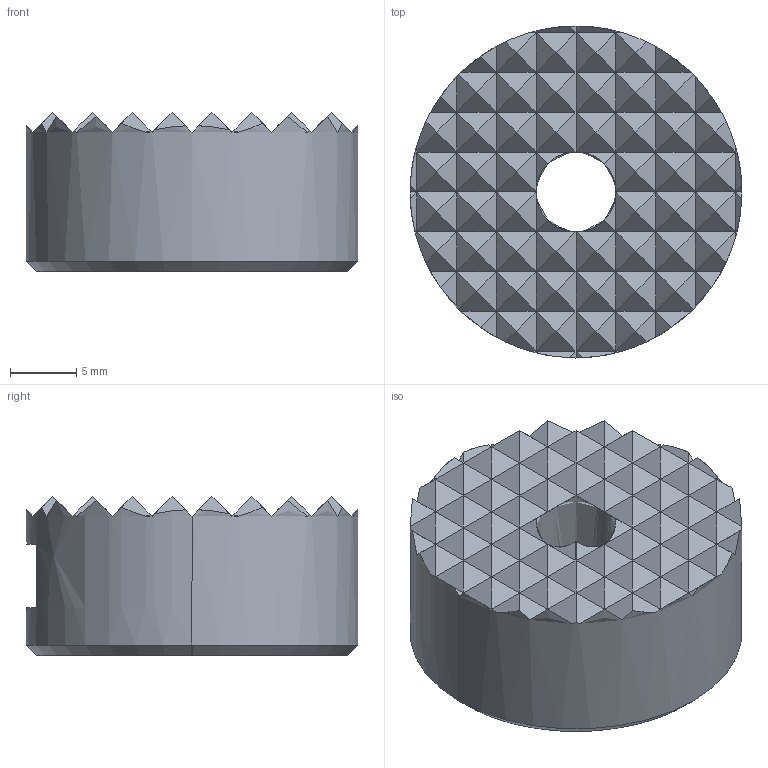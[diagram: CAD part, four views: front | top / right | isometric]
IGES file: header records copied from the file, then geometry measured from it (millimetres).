
Start section: SolidWorks IGES file using analytic representation for surfaces
Global section: file name: X:\11_SW2020-Inv2020\00_全2021-11新製品まで\h\HS-252\hs-252.IGS; native system: SolidWorks 2020; preprocessor: SolidWorks 2020; author: ImaoCorp; date: 211026.101711; units: millimetre
Bounding box: 25 x 25 x 12 mm (x, y, z)
Surface area: 2143.2 mm2 (no closed solid volume)
Topology: 0 solids, 0 shells, 268 faces, 1054 edges, 1054 vertices
Faces by surface type: bspline 260, revolution 8
